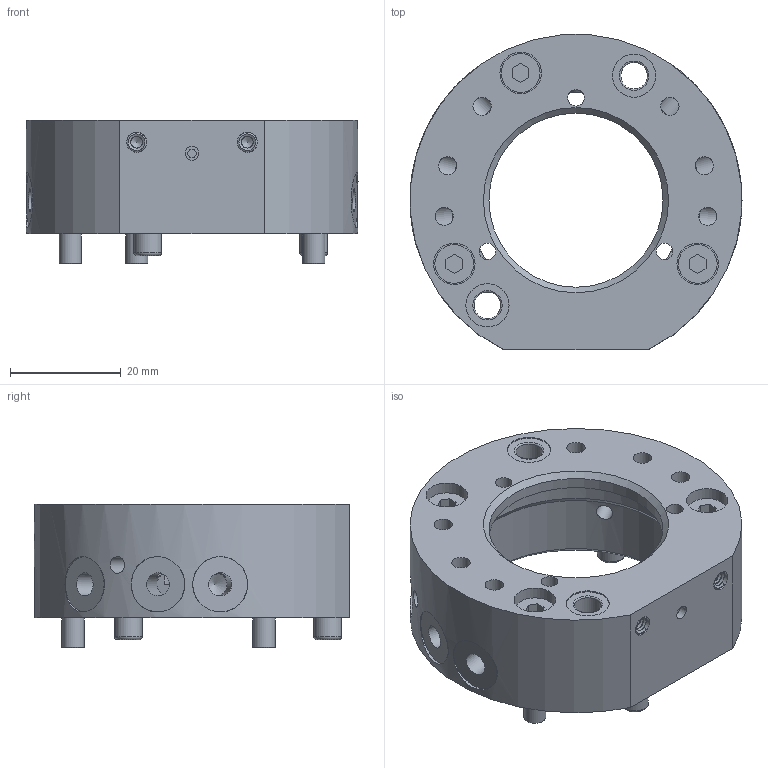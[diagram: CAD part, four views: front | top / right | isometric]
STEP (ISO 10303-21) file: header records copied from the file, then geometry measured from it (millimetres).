
FILE_DESCRIPTION( ( 'Unknown' ), '1' );
FILE_NAME( 'G:/Drawings/99-/EXPORT/x_t-stp-jpg/99-0060A.stp', 'Unknown', ( 'Unknown' ), ( 'Unknown' ), 'XStep 1.0', 'Unknown', ' ' );
FILE_SCHEMA( ( 'CONFIG_CONTROL_DESIGN' ) );
Length unit declared in the file: millimetre
Products named in the file (1): 96503-D1053
Bounding box: 60 x 57 x 26 mm (x, y, z)
Volume: 29882.8 mm3; surface area: 15072.9 mm2
Topology: 1 solids, 5 shells, 190 faces, 474 edges, 318 vertices
Faces by surface type: plane 87, cylinder 72, cone 16, bspline 8, torus 7
Full cylindrical faces by diameter (mm): 2.5 x3, 3 x5, 3.3 x6, 3.63 x16, 4 x3, 4.2 x6, 4.5 x3, 4.805 x2, 4.995 x2, 5 x2, 5.5 x2, 7 x3, 7.5 x3, 7.815 x4, 10 x6, 31.45 x1, 39.015 x1, 40 x1
Entity records: 10193 total; most frequent: CARTESIAN_POINT 6529, DIRECTION 730, ORIENTED_EDGE 608, EDGE_LOOP 313, EDGE_CURVE 304, AXIS2_PLACEMENT_3D 298, VERTEX_POINT 243, FACE_OUTER_BOUND 235
